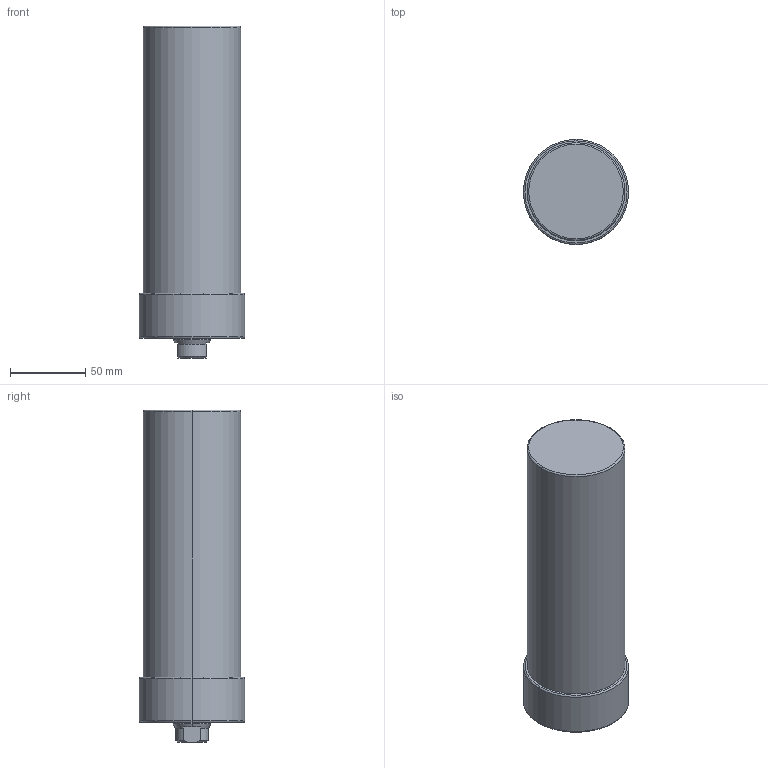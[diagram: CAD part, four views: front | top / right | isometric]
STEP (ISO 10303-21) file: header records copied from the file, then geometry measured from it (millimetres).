
FILE_DESCRIPTION (( 'STEP AP203' ), '1' );
FILE_NAME ('CLLU-065GA-145.STEP', '2020-01-07T00:16:08', ( '' ), ( '' ), 'SwSTEP 2.0', 'SolidWorks 2015', '' );
FILE_SCHEMA (( 'CONFIG_CONTROL_DESIGN' ));
Length unit declared in the file: millimetre
Products named in the file (1): CLLU-065GA-145
Bounding box: 70 x 70 x 221 mm (x, y, z)
Volume: 706546.6 mm3; surface area: 53372.8 mm2
Topology: 1 solids, 1 shells, 62 faces, 140 edges, 79 vertices
Faces by surface type: cone 24, cylinder 22, plane 10, torus 6
Entity records: 1751 total; most frequent: DIRECTION 320, CARTESIAN_POINT 300, ORIENTED_EDGE 260, AXIS2_PLACEMENT_3D 135, EDGE_CURVE 130, VERTEX_POINT 79, CIRCLE 72, EDGE_LOOP 71
